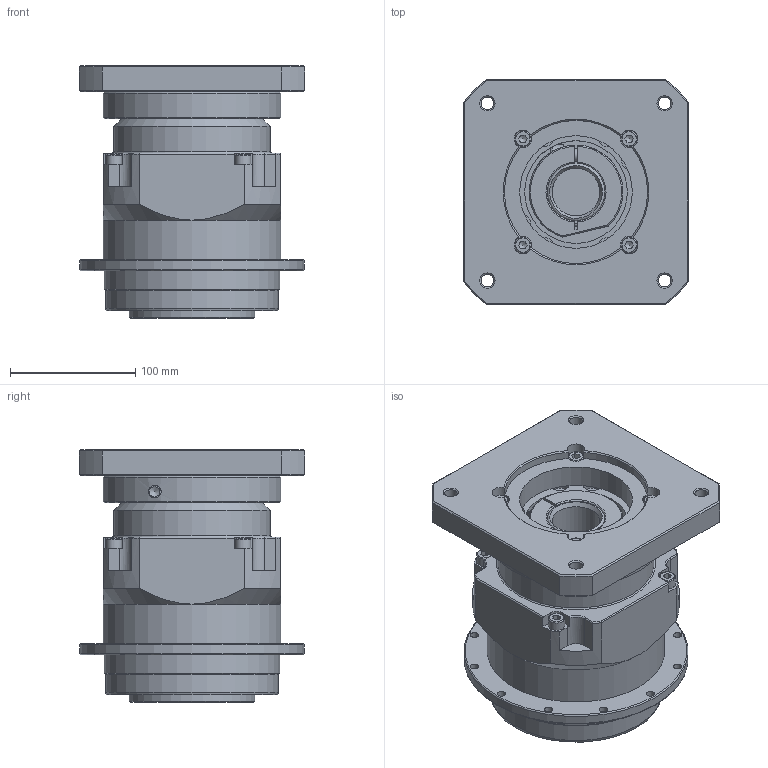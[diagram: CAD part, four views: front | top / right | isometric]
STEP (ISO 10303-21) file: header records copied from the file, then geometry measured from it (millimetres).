
FILE_DESCRIPTION((''),'2;1');
FILE_NAME('D:\유성\유성\도면\3D\2. 홈페이지용 3D 도면 (ipt)\외부도\SPIFH142\SPIFH142 SERIES (1 STAGE)_Shrinkwrap_1.stp','2014-05-08T19:13:21',('nagyu'),(''),'Autodesk Inventor 2013','Autodesk Inventor 2013','');
FILE_SCHEMA(('AUTOMOTIVE_DESIGN { 1 0 10303 214 1 1 1 1 }'));
Length unit declared in the file: millimetre
Products named in the file (1): SPIFH142 SERIES (1 STAGE)_Shrinkwrap_1
Bounding box: 180 x 180 x 201.85 mm (x, y, z)
Volume: 2959533.6 mm3; surface area: 294485.8 mm2
Topology: 1 solids, 20 shells, 464 faces, 1123 edges, 716 vertices
Faces by surface type: plane 193, cylinder 156, cone 79, torus 36
Full cylindrical faces by diameter (mm): 6.6 x12, 6.647 x20, 8 x9, 8.7 x10, 9 x4, 10 x2, 10.106 x5, 11 x1, 13 x19, 14 x10, 16 x1, 38 x1, 44.5 x1, 50 x1, 54.8 x1, 82 x1, 89 x2, 90 x1, 100 x2, 125 x2, 129.8 x1, 130 x1, 138 x1, 140 x1, 142 x2, 179 x1
Entity records: 12532 total; most frequent: CARTESIAN_POINT 2696, DIRECTION 2056, ORIENTED_EDGE 1694, AXIS2_PLACEMENT_3D 882, EDGE_CURVE 847, EDGE_LOOP 743, VERTEX_POINT 628, FACE_OUTER_BOUND 464
